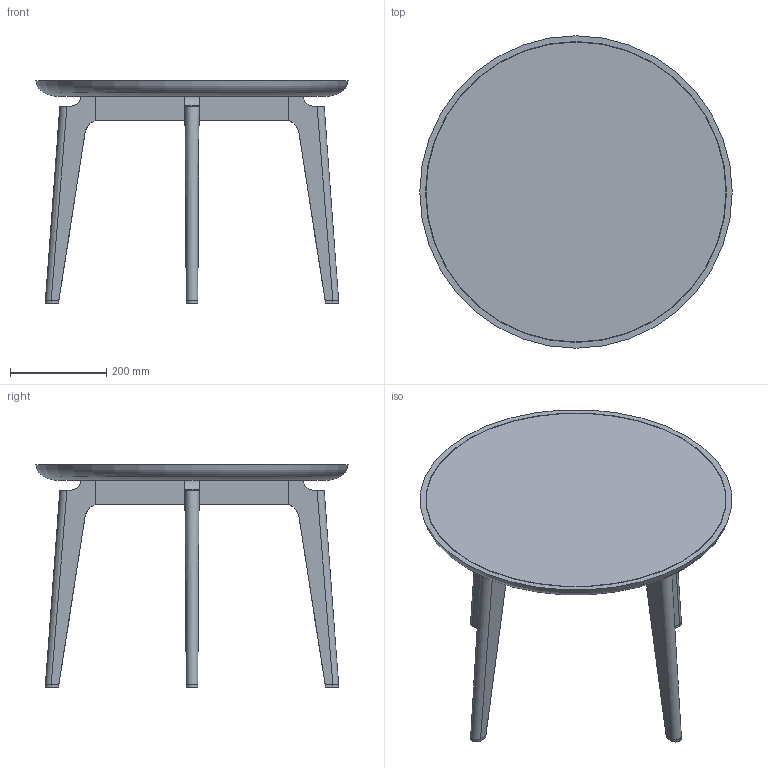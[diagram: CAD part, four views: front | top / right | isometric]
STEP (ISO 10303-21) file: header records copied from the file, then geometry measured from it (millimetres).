
FILE_DESCRIPTION(/* description */ (''),/* implementation_level */ '2;1');
FILE_NAME(/* name */ 'C:\Users\ronnie\Desktop\BLEND (Colombo)\56635-6-7-8-9 BLEND D65 (bronze base).stp',/* time_stamp */ '2016-07-25T13:50:10+02:00',/* author */ ('ronnie'),/* organization */ (''),/* preprocessor_version */ 'ST-DEVELOPER v16.5',/* originating_system */ 'AutoCAD Mechanical',/* authorisation */ '');
FILE_SCHEMA (('AUTOMOTIVE_DESIGN { 1 0 10303 214 3 1 1 }'));
Length unit declared in the file: millimetre
Products named in the file (1): Product
Bounding box: 650 x 650 x 462 mm (x, y, z)
Volume: 8157581.1 mm3; surface area: 1410937.2 mm2
Topology: 11 solids, 11 shells, 166 faces, 386 edges, 256 vertices
Faces by surface type: plane 96, cylinder 44, bspline 24, torus 2
Full cylindrical faces by diameter (mm): 3 x8, 470 x1, 570 x1, 624 x1, 626 x1
Entity records: 5649 total; most frequent: CARTESIAN_POINT 1937, ORIENTED_EDGE 742, DIRECTION 720, EDGE_CURVE 371, VERTEX_POINT 255, AXIS2_PLACEMENT_3D 250, LINE 220, VECTOR 220
